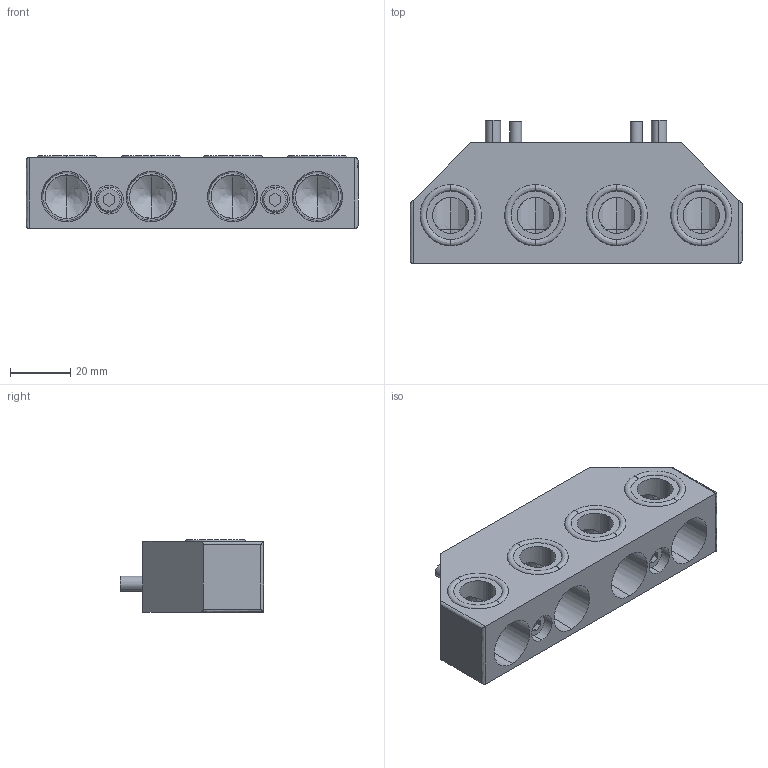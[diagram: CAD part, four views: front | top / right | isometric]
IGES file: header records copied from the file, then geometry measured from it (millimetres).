
Start section: 3D InterOp IGES (v. 2022 1.0.0), Spatial Corp. Copyright (c) 1999-2020.
Global section: file name: KHB-45~300HS-EP104_ver1.igs; native system: Spatial Corp.; preprocessor: 3D InterOp GENERIC/IGES 3.0; author: Noname; organization: Noname; date: 20260427.170248; units: millimetre
Bounding box: 110 x 47.5 x 24.1 mm (x, y, z)
Surface area: 22674.8 mm2 (no closed solid volume)
Topology: 0 solids, 0 shells, 125 faces, 614 edges, 606 vertices
Faces by surface type: revolution 79, extrusion 46
